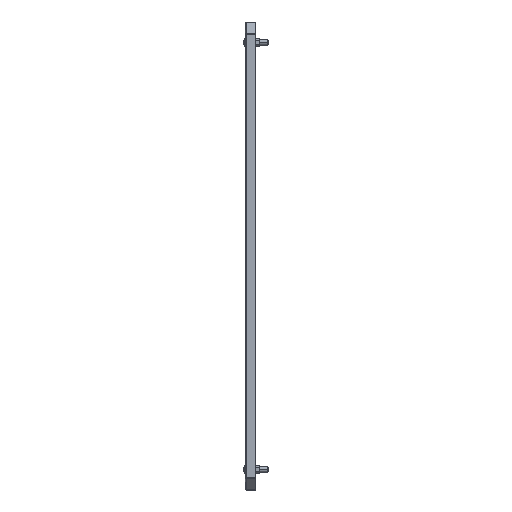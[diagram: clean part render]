
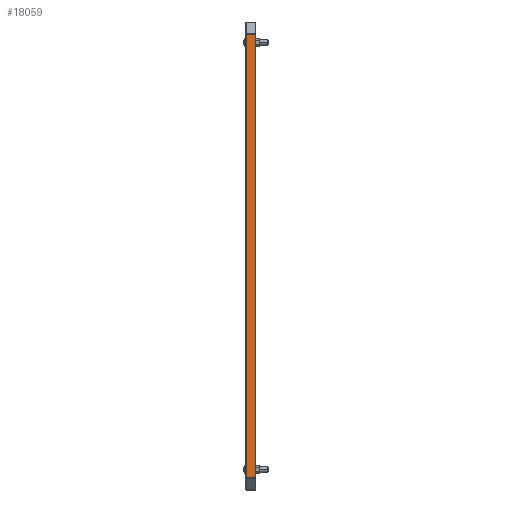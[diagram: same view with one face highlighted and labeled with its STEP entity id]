
A CAD part, left-side view. The second image highlights one B-rep face of the part: STEP entity #18059.
In plain terms, the highlighted planar face has unit normal (-1, 0, 0).
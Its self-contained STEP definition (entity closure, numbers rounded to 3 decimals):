
#5955 = LINE ( 'NONE', #5956, #6416 ) ;
#5956 = CARTESIAN_POINT ( 'NONE',  ( -300., -2.4, 380. ) ) ;
#5957 = DIRECTION ( 'NONE',  ( 0., 0., 1. ) ) ;
#5967 = LINE ( 'NONE', #5968, #6420 ) ;
#5968 = CARTESIAN_POINT ( 'NONE',  ( -300., -18., 380. ) ) ;
#5969 = DIRECTION ( 'NONE',  ( 0., 0., -1. ) ) ;
#5976 = LINE ( 'NONE', #5977, #6423 ) ;
#5977 = CARTESIAN_POINT ( 'NONE',  ( -300., -1.2, 379.395 ) ) ;
#5978 = DIRECTION ( 'NONE',  ( 0., -1., 0. ) ) ;
#5979 = LINE ( 'NONE', #5980, #6425 ) ;
#5980 = CARTESIAN_POINT ( 'NONE',  ( -300., -18., -379.395 ) ) ;
#5981 = DIRECTION ( 'NONE',  ( 0., -1., 0. ) ) ;
#6416 = VECTOR ( 'NONE', #5957, 1000. ) ;
#6420 = VECTOR ( 'NONE', #5969, 1000. ) ;
#6423 = VECTOR ( 'NONE', #5978, 1000. ) ;
#6425 = VECTOR ( 'NONE', #5981, 1000. ) ;
#10860 = CARTESIAN_POINT ( 'NONE',  ( -300., -2.4, -379.395 ) ) ;
#10862 = CARTESIAN_POINT ( 'NONE',  ( -300., -2.4, 379.395 ) ) ;
#10865 = CARTESIAN_POINT ( 'NONE',  ( -300., -18., -379.395 ) ) ;
#10867 = CARTESIAN_POINT ( 'NONE',  ( -300., -18., 379.395 ) ) ;
#18059 = ADVANCED_FACE ( 'NONE', ( #32114 ), #33261, .F. ) ;
#19221 = EDGE_CURVE ( 'NONE', #23478, #23482, #5955, .T. ) ;
#19225 = EDGE_CURVE ( 'NONE', #23492, #23488, #5967, .T. ) ;
#19228 = EDGE_CURVE ( 'NONE', #23482, #23492, #5976, .T. ) ;
#19229 = EDGE_CURVE ( 'NONE', #23478, #23488, #5979, .T. ) ;
#21345 = EDGE_LOOP ( 'NONE', ( #25808, #25811, #25807, #25815 ) ) ;
#23478 = VERTEX_POINT ( 'NONE', #10860 ) ;
#23482 = VERTEX_POINT ( 'NONE', #10862 ) ;
#23488 = VERTEX_POINT ( 'NONE', #10865 ) ;
#23492 = VERTEX_POINT ( 'NONE', #10867 ) ;
#25807 = ORIENTED_EDGE ( 'NONE', *, *, #19225, .F. ) ;
#25808 = ORIENTED_EDGE ( 'NONE', *, *, #19221, .F. ) ;
#25811 = ORIENTED_EDGE ( 'NONE', *, *, #19229, .T. ) ;
#25815 = ORIENTED_EDGE ( 'NONE', *, *, #19228, .F. ) ;
#32114 = FACE_OUTER_BOUND ( 'NONE', #21345, .T. ) ;
#32117 = AXIS2_PLACEMENT_3D ( 'NONE', #33262, #33263, #33264 ) ;
#33261 = PLANE ( 'NONE',  #32117 ) ;
#33262 = CARTESIAN_POINT ( 'NONE',  ( -300., -18., 380. ) ) ;
#33263 = DIRECTION ( 'NONE',  ( 1., 0., 0. ) ) ;
#33264 = DIRECTION ( 'NONE',  ( 0., 1., 0. ) ) ;
